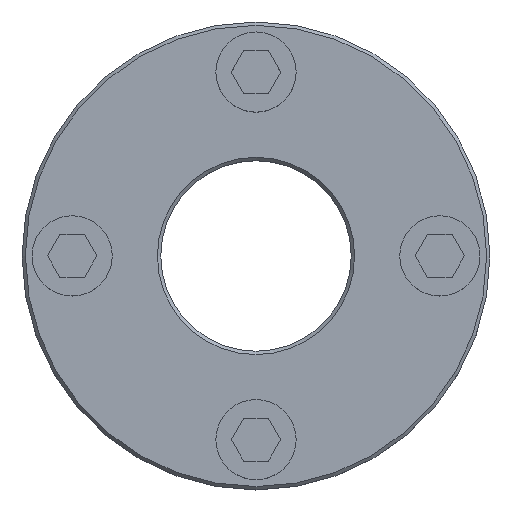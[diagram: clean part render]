
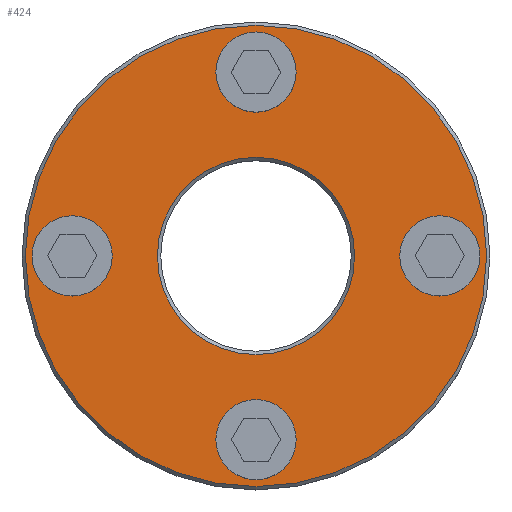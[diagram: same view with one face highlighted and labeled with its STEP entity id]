
A CAD part, top view. The second image highlights one B-rep face of the part: STEP entity #424.
In plain terms, the highlighted planar face has unit normal (0, 0, 1).
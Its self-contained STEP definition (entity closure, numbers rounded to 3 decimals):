
#100 = CONICAL_SURFACE('',#101,70.,0.785);
#101 = AXIS2_PLACEMENT_3D('',#102,#103,#104);
#102 = CARTESIAN_POINT('',(0.,0.,15.));
#103 = DIRECTION('',(-0.,-0.,-1.));
#104 = DIRECTION('',(1.,0.,0.));
#197 = VERTEX_POINT('',#198);
#198 = CARTESIAN_POINT('',(69.,0.,16.));
#219 = EDGE_CURVE('',#197,#197,#220,.T.);
#220 = SURFACE_CURVE('',#221,(#226,#233),.PCURVE_S1.);
#221 = CIRCLE('',#222,69.);
#222 = AXIS2_PLACEMENT_3D('',#223,#224,#225);
#223 = CARTESIAN_POINT('',(0.,0.,16.));
#224 = DIRECTION('',(0.,0.,1.));
#225 = DIRECTION('',(1.,0.,-0.));
#226 = PCURVE('',#100,#227);
#227 = DEFINITIONAL_REPRESENTATION('',(#228),#232);
#228 = LINE('',#229,#230);
#229 = CARTESIAN_POINT('',(-0.,-1.));
#230 = VECTOR('',#231,1.);
#231 = DIRECTION('',(-1.,-0.));
#232 = ( GEOMETRIC_REPRESENTATION_CONTEXT(2) 
PARAMETRIC_REPRESENTATION_CONTEXT() REPRESENTATION_CONTEXT('2D SPACE',''
  ) );
#233 = PCURVE('',#234,#239);
#234 = PLANE('',#235);
#235 = AXIS2_PLACEMENT_3D('',#236,#237,#238);
#236 = CARTESIAN_POINT('',(0.,0.,16.));
#237 = DIRECTION('',(0.,0.,1.));
#238 = DIRECTION('',(1.,0.,-0.));
#239 = DEFINITIONAL_REPRESENTATION('',(#240),#244);
#240 = CIRCLE('',#241,69.);
#241 = AXIS2_PLACEMENT_2D('',#242,#243);
#242 = CARTESIAN_POINT('',(0.,0.));
#243 = DIRECTION('',(1.,0.));
#244 = ( GEOMETRIC_REPRESENTATION_CONTEXT(2) 
PARAMETRIC_REPRESENTATION_CONTEXT() REPRESENTATION_CONTEXT('2D SPACE',''
  ) );
#424 = ADVANCED_FACE('',(#425,#428,#463,#498,#533,#568),#234,.T.);
#425 = FACE_BOUND('',#426,.T.);
#426 = EDGE_LOOP('',(#427));
#427 = ORIENTED_EDGE('',*,*,#219,.T.);
#428 = FACE_BOUND('',#429,.T.);
#429 = EDGE_LOOP('',(#430));
#430 = ORIENTED_EDGE('',*,*,#431,.T.);
#431 = EDGE_CURVE('',#432,#432,#434,.T.);
#432 = VERTEX_POINT('',#433);
#433 = CARTESIAN_POINT('',(10.,-55.,16.));
#434 = SURFACE_CURVE('',#435,(#440,#451),.PCURVE_S1.);
#435 = CIRCLE('',#436,10.);
#436 = AXIS2_PLACEMENT_3D('',#437,#438,#439);
#437 = CARTESIAN_POINT('',(0.,-55.,16.));
#438 = DIRECTION('',(0.,-0.,-1.));
#439 = DIRECTION('',(1.,0.,-0.));
#440 = PCURVE('',#234,#441);
#441 = DEFINITIONAL_REPRESENTATION('',(#442),#450);
#442 = ( BOUNDED_CURVE() B_SPLINE_CURVE(2,(#443,#444,#445,#446,#447,#448
,#449),.UNSPECIFIED.,.T.,.F.) B_SPLINE_CURVE_WITH_KNOTS((1,2,2,2,2,1),(
    -2.094,0.,2.094,4.189,6.283,
8.378),.UNSPECIFIED.) CURVE() GEOMETRIC_REPRESENTATION_ITEM() 
RATIONAL_B_SPLINE_CURVE((1.,0.5,1.,0.5,1.,0.5,1.)) REPRESENTATION_ITEM(
  '') );
#443 = CARTESIAN_POINT('',(10.,-55.));
#444 = CARTESIAN_POINT('',(10.,-72.321));
#445 = CARTESIAN_POINT('',(-5.,-63.66));
#446 = CARTESIAN_POINT('',(-20.,-55.));
#447 = CARTESIAN_POINT('',(-5.,-46.34));
#448 = CARTESIAN_POINT('',(10.,-37.679));
#449 = CARTESIAN_POINT('',(10.,-55.));
#450 = ( GEOMETRIC_REPRESENTATION_CONTEXT(2) 
PARAMETRIC_REPRESENTATION_CONTEXT() REPRESENTATION_CONTEXT('2D SPACE',''
  ) );
#451 = PCURVE('',#452,#457);
#452 = CONICAL_SURFACE('',#453,9.,0.785);
#453 = AXIS2_PLACEMENT_3D('',#454,#455,#456);
#454 = CARTESIAN_POINT('',(0.,-55.,15.));
#455 = DIRECTION('',(0.,0.,1.));
#456 = DIRECTION('',(1.,0.,-0.));
#457 = DEFINITIONAL_REPRESENTATION('',(#458),#462);
#458 = LINE('',#459,#460);
#459 = CARTESIAN_POINT('',(0.,1.));
#460 = VECTOR('',#461,1.);
#461 = DIRECTION('',(-1.,-0.));
#462 = ( GEOMETRIC_REPRESENTATION_CONTEXT(2) 
PARAMETRIC_REPRESENTATION_CONTEXT() REPRESENTATION_CONTEXT('2D SPACE',''
  ) );
#463 = FACE_BOUND('',#464,.T.);
#464 = EDGE_LOOP('',(#465));
#465 = ORIENTED_EDGE('',*,*,#466,.T.);
#466 = EDGE_CURVE('',#467,#467,#469,.T.);
#467 = VERTEX_POINT('',#468);
#468 = CARTESIAN_POINT('',(65.,0.,16.));
#469 = SURFACE_CURVE('',#470,(#475,#486),.PCURVE_S1.);
#470 = CIRCLE('',#471,10.);
#471 = AXIS2_PLACEMENT_3D('',#472,#473,#474);
#472 = CARTESIAN_POINT('',(55.,0.,16.));
#473 = DIRECTION('',(0.,-0.,-1.));
#474 = DIRECTION('',(1.,0.,-0.));
#475 = PCURVE('',#234,#476);
#476 = DEFINITIONAL_REPRESENTATION('',(#477),#485);
#477 = ( BOUNDED_CURVE() B_SPLINE_CURVE(2,(#478,#479,#480,#481,#482,#483
,#484),.UNSPECIFIED.,.T.,.F.) B_SPLINE_CURVE_WITH_KNOTS((1,2,2,2,2,1),(
    -2.094,0.,2.094,4.189,6.283,
8.378),.UNSPECIFIED.) CURVE() GEOMETRIC_REPRESENTATION_ITEM() 
RATIONAL_B_SPLINE_CURVE((1.,0.5,1.,0.5,1.,0.5,1.)) REPRESENTATION_ITEM(
  '') );
#478 = CARTESIAN_POINT('',(65.,0.));
#479 = CARTESIAN_POINT('',(65.,-17.321));
#480 = CARTESIAN_POINT('',(50.,-8.66));
#481 = CARTESIAN_POINT('',(35.,0.));
#482 = CARTESIAN_POINT('',(50.,8.66));
#483 = CARTESIAN_POINT('',(65.,17.321));
#484 = CARTESIAN_POINT('',(65.,0.));
#485 = ( GEOMETRIC_REPRESENTATION_CONTEXT(2) 
PARAMETRIC_REPRESENTATION_CONTEXT() REPRESENTATION_CONTEXT('2D SPACE',''
  ) );
#486 = PCURVE('',#487,#492);
#487 = CONICAL_SURFACE('',#488,9.,0.785);
#488 = AXIS2_PLACEMENT_3D('',#489,#490,#491);
#489 = CARTESIAN_POINT('',(55.,0.,15.));
#490 = DIRECTION('',(0.,0.,1.));
#491 = DIRECTION('',(1.,0.,-0.));
#492 = DEFINITIONAL_REPRESENTATION('',(#493),#497);
#493 = LINE('',#494,#495);
#494 = CARTESIAN_POINT('',(0.,1.));
#495 = VECTOR('',#496,1.);
#496 = DIRECTION('',(-1.,-0.));
#497 = ( GEOMETRIC_REPRESENTATION_CONTEXT(2) 
PARAMETRIC_REPRESENTATION_CONTEXT() REPRESENTATION_CONTEXT('2D SPACE',''
  ) );
#498 = FACE_BOUND('',#499,.T.);
#499 = EDGE_LOOP('',(#500));
#500 = ORIENTED_EDGE('',*,*,#501,.T.);
#501 = EDGE_CURVE('',#502,#502,#504,.T.);
#502 = VERTEX_POINT('',#503);
#503 = CARTESIAN_POINT('',(-45.,0.,16.));
#504 = SURFACE_CURVE('',#505,(#510,#521),.PCURVE_S1.);
#505 = CIRCLE('',#506,10.);
#506 = AXIS2_PLACEMENT_3D('',#507,#508,#509);
#507 = CARTESIAN_POINT('',(-55.,0.,16.));
#508 = DIRECTION('',(0.,-0.,-1.));
#509 = DIRECTION('',(1.,0.,-0.));
#510 = PCURVE('',#234,#511);
#511 = DEFINITIONAL_REPRESENTATION('',(#512),#520);
#512 = ( BOUNDED_CURVE() B_SPLINE_CURVE(2,(#513,#514,#515,#516,#517,#518
,#519),.UNSPECIFIED.,.T.,.F.) B_SPLINE_CURVE_WITH_KNOTS((1,2,2,2,2,1),(
    -2.094,0.,2.094,4.189,6.283,
8.378),.UNSPECIFIED.) CURVE() GEOMETRIC_REPRESENTATION_ITEM() 
RATIONAL_B_SPLINE_CURVE((1.,0.5,1.,0.5,1.,0.5,1.)) REPRESENTATION_ITEM(
  '') );
#513 = CARTESIAN_POINT('',(-45.,0.));
#514 = CARTESIAN_POINT('',(-45.,-17.321));
#515 = CARTESIAN_POINT('',(-60.,-8.66));
#516 = CARTESIAN_POINT('',(-75.,0.));
#517 = CARTESIAN_POINT('',(-60.,8.66));
#518 = CARTESIAN_POINT('',(-45.,17.321));
#519 = CARTESIAN_POINT('',(-45.,0.));
#520 = ( GEOMETRIC_REPRESENTATION_CONTEXT(2) 
PARAMETRIC_REPRESENTATION_CONTEXT() REPRESENTATION_CONTEXT('2D SPACE',''
  ) );
#521 = PCURVE('',#522,#527);
#522 = CONICAL_SURFACE('',#523,9.,0.785);
#523 = AXIS2_PLACEMENT_3D('',#524,#525,#526);
#524 = CARTESIAN_POINT('',(-55.,0.,15.));
#525 = DIRECTION('',(0.,0.,1.));
#526 = DIRECTION('',(1.,0.,-0.));
#527 = DEFINITIONAL_REPRESENTATION('',(#528),#532);
#528 = LINE('',#529,#530);
#529 = CARTESIAN_POINT('',(0.,1.));
#530 = VECTOR('',#531,1.);
#531 = DIRECTION('',(-1.,-0.));
#532 = ( GEOMETRIC_REPRESENTATION_CONTEXT(2) 
PARAMETRIC_REPRESENTATION_CONTEXT() REPRESENTATION_CONTEXT('2D SPACE',''
  ) );
#533 = FACE_BOUND('',#534,.T.);
#534 = EDGE_LOOP('',(#535));
#535 = ORIENTED_EDGE('',*,*,#536,.T.);
#536 = EDGE_CURVE('',#537,#537,#539,.T.);
#537 = VERTEX_POINT('',#538);
#538 = CARTESIAN_POINT('',(29.5,0.,16.));
#539 = SURFACE_CURVE('',#540,(#545,#556),.PCURVE_S1.);
#540 = CIRCLE('',#541,29.5);
#541 = AXIS2_PLACEMENT_3D('',#542,#543,#544);
#542 = CARTESIAN_POINT('',(0.,0.,16.));
#543 = DIRECTION('',(0.,-0.,-1.));
#544 = DIRECTION('',(1.,0.,-0.));
#545 = PCURVE('',#234,#546);
#546 = DEFINITIONAL_REPRESENTATION('',(#547),#555);
#547 = ( BOUNDED_CURVE() B_SPLINE_CURVE(2,(#548,#549,#550,#551,#552,#553
,#554),.UNSPECIFIED.,.T.,.F.) B_SPLINE_CURVE_WITH_KNOTS((1,2,2,2,2,1),(
    -2.094,0.,2.094,4.189,6.283,
8.378),.UNSPECIFIED.) CURVE() GEOMETRIC_REPRESENTATION_ITEM() 
RATIONAL_B_SPLINE_CURVE((1.,0.5,1.,0.5,1.,0.5,1.)) REPRESENTATION_ITEM(
  '') );
#548 = CARTESIAN_POINT('',(29.5,0.));
#549 = CARTESIAN_POINT('',(29.5,-51.095));
#550 = CARTESIAN_POINT('',(-14.75,-25.548));
#551 = CARTESIAN_POINT('',(-59.,0.));
#552 = CARTESIAN_POINT('',(-14.75,25.548));
#553 = CARTESIAN_POINT('',(29.5,51.095));
#554 = CARTESIAN_POINT('',(29.5,0.));
#555 = ( GEOMETRIC_REPRESENTATION_CONTEXT(2) 
PARAMETRIC_REPRESENTATION_CONTEXT() REPRESENTATION_CONTEXT('2D SPACE',''
  ) );
#556 = PCURVE('',#557,#562);
#557 = CONICAL_SURFACE('',#558,28.5,0.785);
#558 = AXIS2_PLACEMENT_3D('',#559,#560,#561);
#559 = CARTESIAN_POINT('',(0.,0.,15.));
#560 = DIRECTION('',(0.,0.,1.));
#561 = DIRECTION('',(1.,0.,-0.));
#562 = DEFINITIONAL_REPRESENTATION('',(#563),#567);
#563 = LINE('',#564,#565);
#564 = CARTESIAN_POINT('',(0.,1.));
#565 = VECTOR('',#566,1.);
#566 = DIRECTION('',(-1.,-0.));
#567 = ( GEOMETRIC_REPRESENTATION_CONTEXT(2) 
PARAMETRIC_REPRESENTATION_CONTEXT() REPRESENTATION_CONTEXT('2D SPACE',''
  ) );
#568 = FACE_BOUND('',#569,.T.);
#569 = EDGE_LOOP('',(#570));
#570 = ORIENTED_EDGE('',*,*,#571,.T.);
#571 = EDGE_CURVE('',#572,#572,#574,.T.);
#572 = VERTEX_POINT('',#573);
#573 = CARTESIAN_POINT('',(10.,55.,16.));
#574 = SURFACE_CURVE('',#575,(#580,#591),.PCURVE_S1.);
#575 = CIRCLE('',#576,10.);
#576 = AXIS2_PLACEMENT_3D('',#577,#578,#579);
#577 = CARTESIAN_POINT('',(0.,55.,16.));
#578 = DIRECTION('',(0.,-0.,-1.));
#579 = DIRECTION('',(1.,0.,-0.));
#580 = PCURVE('',#234,#581);
#581 = DEFINITIONAL_REPRESENTATION('',(#582),#590);
#582 = ( BOUNDED_CURVE() B_SPLINE_CURVE(2,(#583,#584,#585,#586,#587,#588
,#589),.UNSPECIFIED.,.T.,.F.) B_SPLINE_CURVE_WITH_KNOTS((1,2,2,2,2,1),(
    -2.094,0.,2.094,4.189,6.283,
8.378),.UNSPECIFIED.) CURVE() GEOMETRIC_REPRESENTATION_ITEM() 
RATIONAL_B_SPLINE_CURVE((1.,0.5,1.,0.5,1.,0.5,1.)) REPRESENTATION_ITEM(
  '') );
#583 = CARTESIAN_POINT('',(10.,55.));
#584 = CARTESIAN_POINT('',(10.,37.679));
#585 = CARTESIAN_POINT('',(-5.,46.34));
#586 = CARTESIAN_POINT('',(-20.,55.));
#587 = CARTESIAN_POINT('',(-5.,63.66));
#588 = CARTESIAN_POINT('',(10.,72.321));
#589 = CARTESIAN_POINT('',(10.,55.));
#590 = ( GEOMETRIC_REPRESENTATION_CONTEXT(2) 
PARAMETRIC_REPRESENTATION_CONTEXT() REPRESENTATION_CONTEXT('2D SPACE',''
  ) );
#591 = PCURVE('',#592,#597);
#592 = CONICAL_SURFACE('',#593,9.,0.785);
#593 = AXIS2_PLACEMENT_3D('',#594,#595,#596);
#594 = CARTESIAN_POINT('',(0.,55.,15.));
#595 = DIRECTION('',(0.,0.,1.));
#596 = DIRECTION('',(1.,0.,-0.));
#597 = DEFINITIONAL_REPRESENTATION('',(#598),#602);
#598 = LINE('',#599,#600);
#599 = CARTESIAN_POINT('',(0.,1.));
#600 = VECTOR('',#601,1.);
#601 = DIRECTION('',(-1.,-0.));
#602 = ( GEOMETRIC_REPRESENTATION_CONTEXT(2) 
PARAMETRIC_REPRESENTATION_CONTEXT() REPRESENTATION_CONTEXT('2D SPACE',''
  ) );
